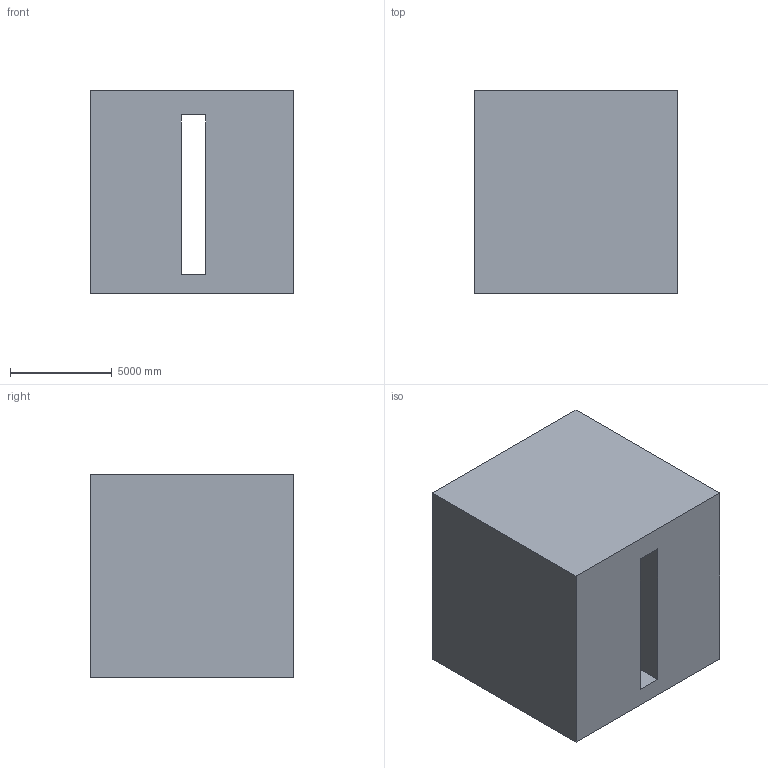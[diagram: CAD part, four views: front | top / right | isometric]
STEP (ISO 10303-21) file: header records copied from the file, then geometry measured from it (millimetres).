
FILE_DESCRIPTION (( 'STEP AP203' ), '1' );
FILE_NAME ('91.STEP', '2022-08-04T14:17:21', ( 'user' ), ( '' ), 'SwSTEP 2.0', 'SolidWorks 2021', '' );
FILE_SCHEMA (( 'CONFIG_CONTROL_DESIGN' ));
Length unit declared in the file: centimetre
Products named in the file (1): 91
Bounding box: 10000 x 10000 x 10000 mm (x, y, z)
Volume: 857895195495.9 mm3; surface area: 758098768 mm2
Topology: 1 solids, 1 shells, 12 faces, 30 edges, 20 vertices
Faces by surface type: plane 11, cylinder 1
Entity records: 437 total; most frequent: CARTESIAN_POINT 63, ORIENTED_EDGE 60, DIRECTION 58, EDGE_CURVE 30, VECTOR 28, LINE 28, VERTEX_POINT 20, AXIS2_PLACEMENT_3D 15
